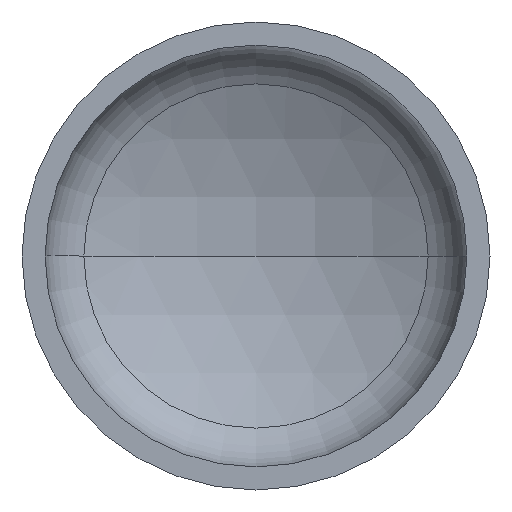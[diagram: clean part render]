
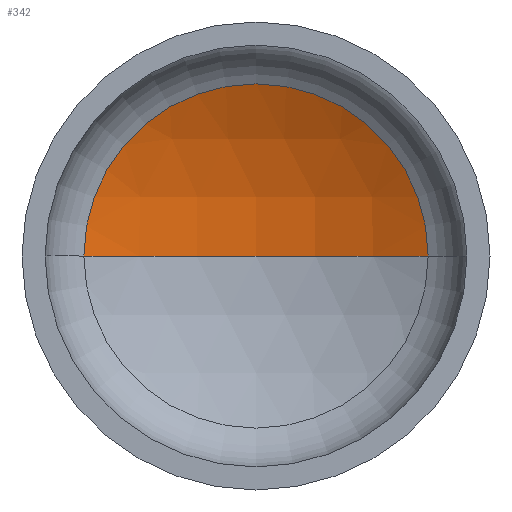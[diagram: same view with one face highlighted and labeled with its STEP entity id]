
A CAD part, front view. The second image highlights one B-rep face of the part: STEP entity #342.
In plain terms, the highlighted spherical face has radius 1200 mm.
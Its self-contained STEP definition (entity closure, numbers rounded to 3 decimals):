
#11 = VERTEX_POINT ( 'NONE', #276 ) ;
#16 = AXIS2_PLACEMENT_3D ( 'NONE', #165, #58, #19 ) ;
#17 = AXIS2_PLACEMENT_3D ( 'NONE', #214, #181, #182 ) ;
#18 = AXIS2_PLACEMENT_3D ( 'NONE', #250, #229, #243 ) ;
#19 = DIRECTION ( 'NONE',  ( 1., 0., 0. ) ) ;
#38 = EDGE_LOOP ( 'NONE', ( #142, #80, #62 ) ) ;
#52 = EDGE_CURVE ( 'NONE', #11, #162, #351, .T. ) ;
#54 = EDGE_CURVE ( 'NONE', #127, #11, #289, .T. ) ;
#56 = EDGE_CURVE ( 'NONE', #127, #162, #210, .T. ) ;
#58 = DIRECTION ( 'NONE',  ( 0., 0., 1. ) ) ;
#62 = ORIENTED_EDGE ( 'NONE', *, *, #52, .T. ) ;
#80 = ORIENTED_EDGE ( 'NONE', *, *, #54, .T. ) ;
#127 = VERTEX_POINT ( 'NONE', #403 ) ;
#142 = ORIENTED_EDGE ( 'NONE', *, *, #56, .F. ) ;
#162 = VERTEX_POINT ( 'NONE', #277 ) ;
#164 = AXIS2_PLACEMENT_3D ( 'NONE', #309, #291, #237 ) ;
#165 = CARTESIAN_POINT ( 'NONE',  ( 0., -741.385, 0. ) ) ;
#181 = DIRECTION ( 'NONE',  ( 0., 0., -1. ) ) ;
#182 = DIRECTION ( 'NONE',  ( -1., 0., 0. ) ) ;
#210 = CIRCLE ( 'NONE', #16, 1200. ) ;
#214 = CARTESIAN_POINT ( 'NONE',  ( 0., -741.385, 0. ) ) ;
#229 = DIRECTION ( 'NONE',  ( 0., -1., 0. ) ) ;
#237 = DIRECTION ( 'NONE',  ( -1., 0., 0. ) ) ;
#243 = DIRECTION ( 'NONE',  ( 1., 0., 0. ) ) ;
#250 = CARTESIAN_POINT ( 'NONE',  ( 0., 324.246, 0. ) ) ;
#252 = FACE_OUTER_BOUND ( 'NONE', #38, .T. ) ;
#276 = CARTESIAN_POINT ( 'NONE',  ( 551.753, 324.246, 0. ) ) ;
#277 = CARTESIAN_POINT ( 'NONE',  ( -551.753, 324.246, 0. ) ) ;
#289 = CIRCLE ( 'NONE', #17, 1200. ) ;
#291 = DIRECTION ( 'NONE',  ( 0., 0., -1. ) ) ;
#309 = CARTESIAN_POINT ( 'NONE',  ( 0., -741.385, 0. ) ) ;
#342 = ADVANCED_FACE ( 'NONE', ( #252 ), #372, .F. ) ;
#351 = CIRCLE ( 'NONE', #18, 551.753 ) ;
#372 = SPHERICAL_SURFACE ( 'NONE', #164, 1200. ) ;
#403 = CARTESIAN_POINT ( 'NONE',  ( 0., 458.615, 0. ) ) ;
